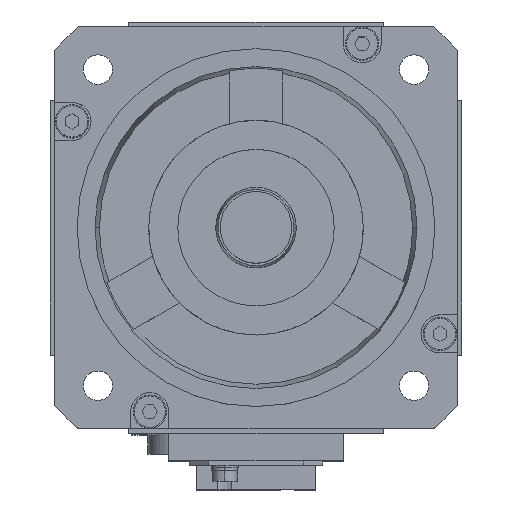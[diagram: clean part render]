
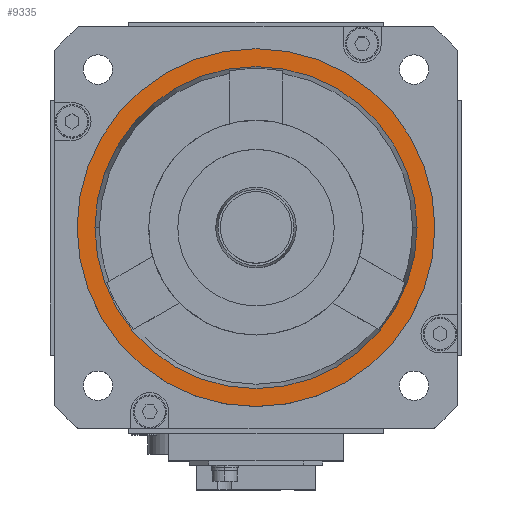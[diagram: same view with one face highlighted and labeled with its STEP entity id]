
A CAD part, top view. The second image highlights one B-rep face of the part: STEP entity #9335.
In plain terms, the highlighted planar face has unit normal (0, 0, 1).
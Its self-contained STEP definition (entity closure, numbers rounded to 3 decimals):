
#409 = VERTEX_POINT ( 'NONE', #11521 ) ;
#417 = EDGE_CURVE ( 'NONE', #446, #409, #11508, .T. ) ;
#446 = VERTEX_POINT ( 'NONE', #11590 ) ;
#2859 = CARTESIAN_POINT ( 'NONE',  ( 0., 0., 5. ) ) ;
#2919 = DIRECTION ( 'NONE',  ( 1., 0., 0. ) ) ;
#2920 = DIRECTION ( 'NONE',  ( 0., 0., 1. ) ) ;
#2921 = AXIS2_PLACEMENT_3D ( 'NONE', #2859, #2920, #2919 ) ;
#2922 = CIRCLE ( 'NONE', #2921, 40. ) ;
#6118 = DIRECTION ( 'NONE',  ( 1., 0., 0. ) ) ;
#6120 = DIRECTION ( 'NONE',  ( 0., 0., 1. ) ) ;
#6121 = CARTESIAN_POINT ( 'NONE',  ( 0., 0., 5. ) ) ;
#6122 = AXIS2_PLACEMENT_3D ( 'NONE', #6121, #6120, #6118 ) ;
#6123 = CIRCLE ( 'NONE', #6122, 36. ) ;
#8149 = CIRCLE ( 'NONE', #8154, 40. ) ;
#8154 = AXIS2_PLACEMENT_3D ( 'NONE', #8216, #8215, #8214 ) ;
#8195 = CARTESIAN_POINT ( 'NONE',  ( -40., 0., 5. ) ) ;
#8207 = CARTESIAN_POINT ( 'NONE',  ( 40., 0., 5. ) ) ;
#8214 = DIRECTION ( 'NONE',  ( 1., 0., 0. ) ) ;
#8215 = DIRECTION ( 'NONE',  ( 0., 0., 1. ) ) ;
#8216 = CARTESIAN_POINT ( 'NONE',  ( 0., 0., 5. ) ) ;
#9335 = ADVANCED_FACE ( 'NONE', ( #14820, #14819 ), #14817, .T. ) ;
#9600 = ORIENTED_EDGE ( 'NONE', *, *, #417, .F. ) ;
#11077 = ORIENTED_EDGE ( 'NONE', *, *, #18057, .F. ) ;
#11373 = EDGE_LOOP ( 'NONE', ( #11077, #9600 ) ) ;
#11505 = DIRECTION ( 'NONE',  ( 1., 0., 0. ) ) ;
#11506 = DIRECTION ( 'NONE',  ( 0., 0., 1. ) ) ;
#11507 = AXIS2_PLACEMENT_3D ( 'NONE', #11513, #11506, #11505 ) ;
#11508 = CIRCLE ( 'NONE', #11507, 36. ) ;
#11513 = CARTESIAN_POINT ( 'NONE',  ( 0., 0., 5. ) ) ;
#11521 = CARTESIAN_POINT ( 'NONE',  ( 36., 0., 5. ) ) ;
#11590 = CARTESIAN_POINT ( 'NONE',  ( -36., 0., 5. ) ) ;
#12073 = ORIENTED_EDGE ( 'NONE', *, *, #19250, .T. ) ;
#12512 = EDGE_LOOP ( 'NONE', ( #12651, #12073 ) ) ;
#12651 = ORIENTED_EDGE ( 'NONE', *, *, #12693, .T. ) ;
#12693 = EDGE_CURVE ( 'NONE', #19258, #19253, #2922, .T. ) ;
#14811 = DIRECTION ( 'NONE',  ( 1., 0., 0. ) ) ;
#14813 = DIRECTION ( 'NONE',  ( 0., 0., 1. ) ) ;
#14814 = CARTESIAN_POINT ( 'NONE',  ( 0., 0., 5. ) ) ;
#14816 = AXIS2_PLACEMENT_3D ( 'NONE', #14814, #14813, #14811 ) ;
#14817 = PLANE ( 'NONE',  #14816 ) ;
#14819 = FACE_BOUND ( 'NONE', #11373, .T. ) ;
#14820 = FACE_OUTER_BOUND ( 'NONE', #12512, .T. ) ;
#18057 = EDGE_CURVE ( 'NONE', #409, #446, #6123, .T. ) ;
#19250 = EDGE_CURVE ( 'NONE', #19253, #19258, #8149, .T. ) ;
#19253 = VERTEX_POINT ( 'NONE', #8207 ) ;
#19258 = VERTEX_POINT ( 'NONE', #8195 ) ;
